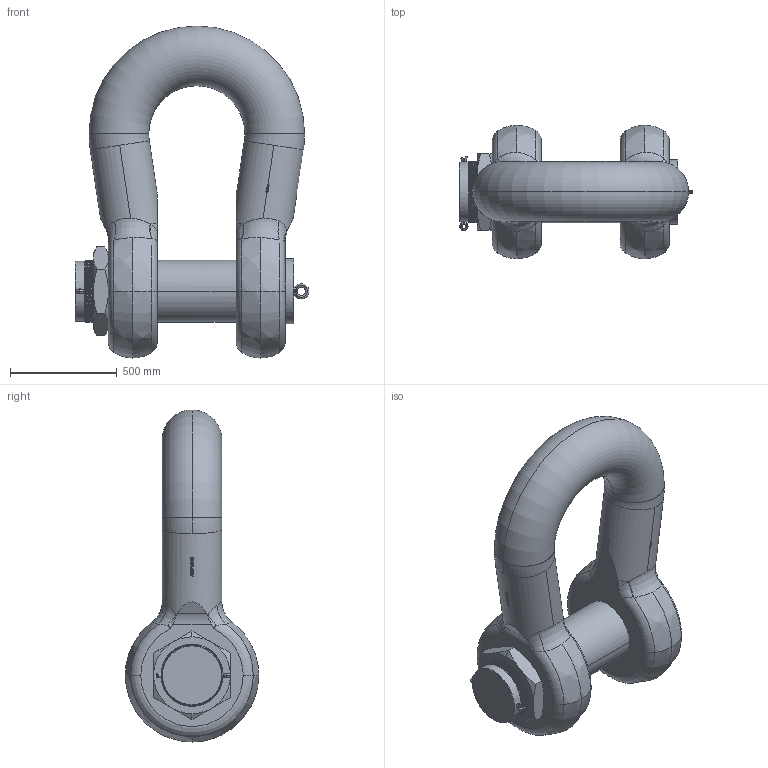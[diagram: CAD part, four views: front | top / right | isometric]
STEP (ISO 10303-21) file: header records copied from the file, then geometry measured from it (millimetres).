
FILE_DESCRIPTION(('STEP AP214'),'1');
FILE_NAME('hdgphm1500.stp','2017-06-30T09:25:17',('TraceParts'),('TraceParts S.A.'),'Spatial InterOp 3D',' ',' ');
FILE_SCHEMA(('automotive_design'));
Length unit declared in the file: millimetre
Products named in the file (5): HDGPHM1500|HDGPHM1500_1#HDGPHM1500_1;MANIFOLD_SOLID_BREP #22061; HDGPHM1500|HDGPHM1500_1#HDGPHM1500_2;MANIFOLD_SOLID_BREP #45510; hdgphm1500_3; hdgphm1500_4; hdgphm1500_5
Bounding box: 1096 x 625 x 1555.49 mm (x, y, z)
Volume: 293644368.7 mm3; surface area: 5173662.6 mm2
Topology: 5 solids, 5 shells, 1322 faces, 5501 edges, 4240 vertices
Faces by surface type: bspline 492, plane 412, cylinder 356, torus 36, cone 26
Entity records: 118338 total; most frequent: CARTESIAN_POINT 71022, ORIENTED_EDGE 10998, EDGE_CURVE 5499, VERTEX_POINT 4240, B_SPLINE_CURVE_WITH_KNOTS 4193, DIRECTION 3029, EDGE_LOOP 1385, STYLED_ITEM 1327
